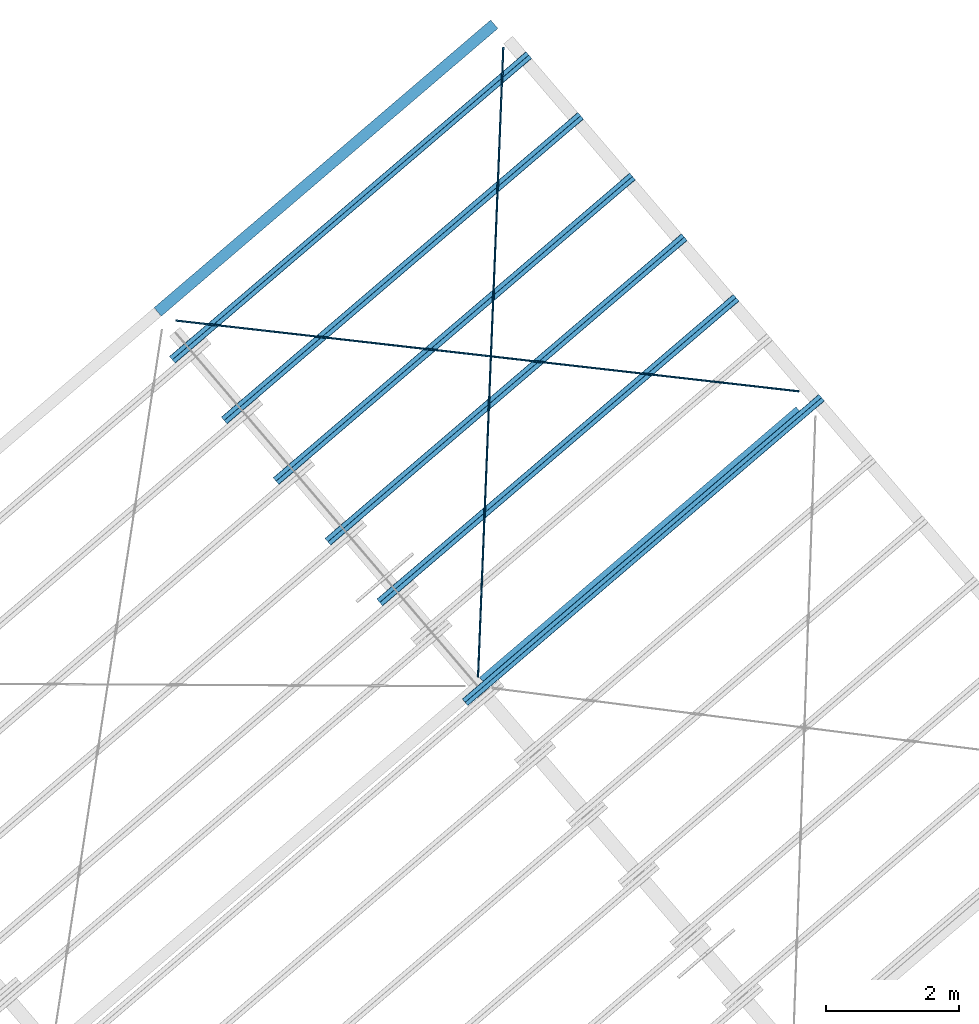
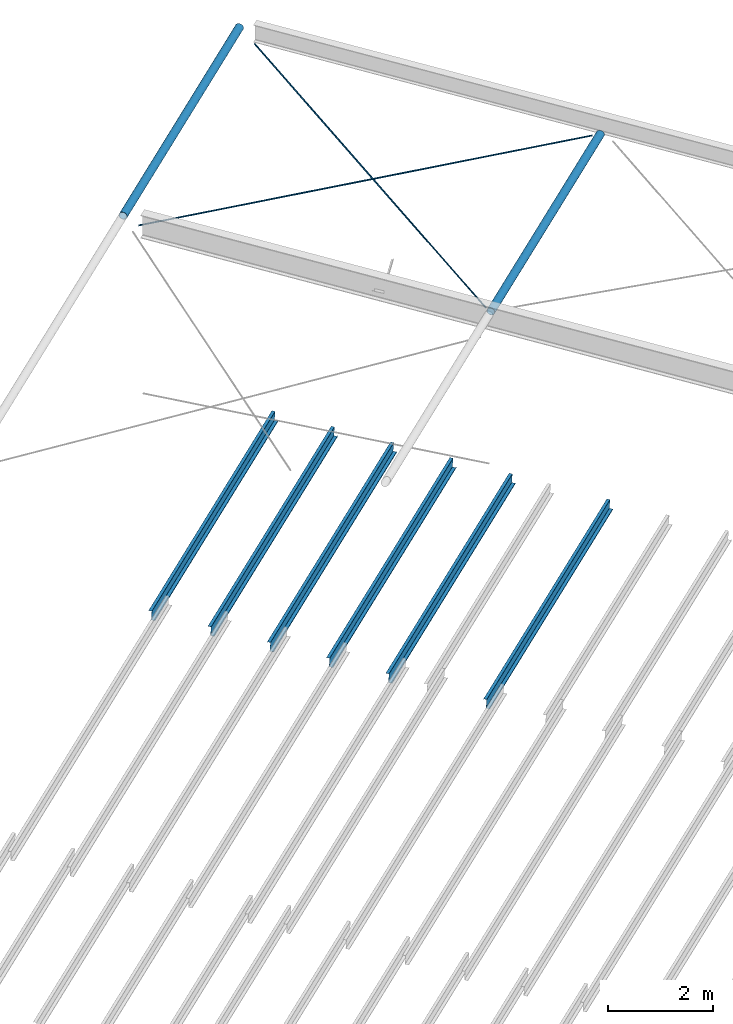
# One storey, part 20 of 25: 10 beams, 2 elements without a shape of their own.
"""IFC2X3 building model written with IfcOpenShell, lengths in millimetres."""

from ifc_helpers import new_model, entity, si_unit, converted_unit, derived_unit, direction, frame, frame_2d, origin, origin_2d_with_axis, place, context, subcontext, project, spatial, polyline, circle_curve, parameter, trimmed, segment, composite_curve, circle, hollow_circle, outline, extrude, material, type_object, element, aggregate, save


model = new_model("IFC2X3")

# Units and contexts
model_context = context("Model", 3, precision=0.01, world=origin(), true_north=direction((6.123031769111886e-17, 1.0)))
body_context = subcontext(model_context, "Body", "Model", "MODEL_VIEW")
ifc_project = project(units=[si_unit("LENGTHUNIT", "METRE", prefix="MILLI"), si_unit("AREAUNIT", "SQUARE_METRE"), si_unit("VOLUMEUNIT", "CUBIC_METRE"), converted_unit("PLANEANGLEUNIT", "DEGREE", entity("IfcRatioMeasure", 0.017453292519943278), si_unit("PLANEANGLEUNIT", "RADIAN"), dimensions=[0, 0, 0, 0, 0, 0, 0]), si_unit("MASSUNIT", "GRAM", prefix="KILO"), derived_unit("MASSDENSITYUNIT", [(si_unit("MASSUNIT", "GRAM", prefix="KILO"), 1), (si_unit("LENGTHUNIT", "METRE"), -3)]), derived_unit("MOMENTOFINERTIAUNIT", [(si_unit("LENGTHUNIT", "METRE"), 4)]), si_unit("TIMEUNIT", "SECOND"), si_unit("FREQUENCYUNIT", "HERTZ"), si_unit("THERMODYNAMICTEMPERATUREUNIT", "DEGREE_CELSIUS"), derived_unit("THERMALTRANSMITTANCEUNIT", [(si_unit("MASSUNIT", "GRAM", prefix="KILO"), 1), (si_unit("THERMODYNAMICTEMPERATUREUNIT", "KELVIN"), -1), (si_unit("TIMEUNIT", "SECOND"), -3)]), derived_unit("VOLUMETRICFLOWRATEUNIT", [(si_unit("LENGTHUNIT", "METRE"), 3), (si_unit("TIMEUNIT", "SECOND"), -1)]), derived_unit("MASSFLOWRATEUNIT", [(si_unit("MASSUNIT", "GRAM", prefix="KILO"), 1), (si_unit("TIMEUNIT", "SECOND"), -1)]), derived_unit("ROTATIONALFREQUENCYUNIT", [(si_unit("TIMEUNIT", "SECOND"), -1)]), si_unit("ELECTRICCURRENTUNIT", "AMPERE"), si_unit("ELECTRICVOLTAGEUNIT", "VOLT"), si_unit("POWERUNIT", "WATT"), si_unit("FORCEUNIT", "NEWTON", prefix="KILO"), si_unit("ILLUMINANCEUNIT", "LUX"), si_unit("LUMINOUSFLUXUNIT", "LUMEN"), si_unit("LUMINOUSINTENSITYUNIT", "CANDELA"), derived_unit("USERDEFINED", [(si_unit("MASSUNIT", "GRAM", prefix="KILO"), -1), (si_unit("LENGTHUNIT", "METRE"), -2), (si_unit("TIMEUNIT", "SECOND"), 3), (si_unit("LUMINOUSFLUXUNIT", "LUMEN"), 1)]), derived_unit("SOUNDPOWERUNIT", [(si_unit("MASSUNIT", "GRAM", prefix="KILO"), 1), (si_unit("LENGTHUNIT", "METRE"), 2), (si_unit("TIMEUNIT", "SECOND"), -3)]), derived_unit("LINEARVELOCITYUNIT", [(si_unit("LENGTHUNIT", "METRE"), 1), (si_unit("TIMEUNIT", "SECOND"), -1)]), si_unit("PRESSUREUNIT", "PASCAL"), derived_unit("USERDEFINED", [(si_unit("LENGTHUNIT", "METRE"), -2), (si_unit("MASSUNIT", "GRAM", prefix="KILO"), 1), (si_unit("TIMEUNIT", "SECOND"), -2)]), derived_unit("LINEARFORCEUNIT", [(si_unit("MASSUNIT", "GRAM", prefix="KILO"), 1), (si_unit("LENGTHUNIT", "METRE"), 1), (si_unit("TIMEUNIT", "SECOND"), -2), (si_unit("LENGTHUNIT", "METRE"), -1)]), derived_unit("PLANARFORCEUNIT", [(si_unit("MASSUNIT", "GRAM", prefix="KILO"), 1), (si_unit("LENGTHUNIT", "METRE"), 1), (si_unit("TIMEUNIT", "SECOND"), -2), (si_unit("LENGTHUNIT", "METRE"), -2)])], contexts=[model_context])

# Site, building, storey
site_placement = place(None, frame((962.4174930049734, -6014.433753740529, 0.0), z_axis=(0.0, 0.0, 1.0), x_axis=(0.7601792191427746, 0.649713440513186, 0.0)))
site = spatial("IfcSite", under=ifc_project, at=site_placement, Name="Default", CompositionType="ELEMENT")
building_placement = place(site_placement, origin())
building = spatial("IfcBuilding", under=site, at=building_placement, CompositionType="ELEMENT")
storey_placement = place(building_placement, frame((0.0, 0.0, 9200.0)))
storey = spatial("IfcBuildingStorey", under=building, at=storey_placement, Name="TOP OF CEILING", CompositionType="ELEMENT", Elevation=9200.000000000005)

# Beams
ifc_material_1 = material(Name="Metal - Steel - 300 MPa")
beam_type_1 = type_object("IfcBeamType", Name="ADSK_AU_CHS-Circular Hollow Sections (AS 1163_C350):168.3x6.4CHS", PredefinedType="NOTDEFINED")
beam_1_placement = place(storey_placement, frame((185498.96020471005, -3867.590582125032, 3533.8), z_axis=(0.0, 0.0, 1.0), x_axis=(-1.0, 0.0, 0.0)))
element("IfcBeam", 1, at=beam_1_placement, inside=storey, type_object=beam_type_1, material=ifc_material_1, Name="ADSK_AU_CHS-Circular Hollow Sections (AS 1163_C350):168.3x6.4CHS", ObjectType="ADSK_AU_CHS-Circular Hollow Sections (AS 1163_C350):168.3x6.4CHS", context=body_context, shape_type="SweptSolid", body=[
    extrude(hollow_circle(Radius=84.15000000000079, WallThickness=6.4000000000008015, at=origin_2d_with_axis()), frame((7.0, 0.0, -84.15000000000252), z_axis=(1.0, 0.0, 0.0), x_axis=(0.0, 1.0, 0.0)), (0.0, 0.0, 1.0), 6245.899999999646),
])
beam_2_placement = place(storey_placement, frame((179292.0602047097, 3518.4719178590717, 4100.299999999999)))
element("IfcBeam", 2, at=beam_2_placement, inside=storey, type_object=beam_type_1, material=ifc_material_1, Name="ADSK_AU_CHS-Circular Hollow Sections (AS 1163_C350):168.3x6.4CHS", ObjectType="ADSK_AU_CHS-Circular Hollow Sections (AS 1163_C350):168.3x6.4CHS", context=body_context, shape_type="SweptSolid", body=[
    extrude(hollow_circle(Radius=84.15000000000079, WallThickness=6.4000000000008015, at=origin_2d_with_axis()), frame((-153.0999999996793, 0.0, -84.15000000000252), z_axis=(1.0, 0.0, 0.0), x_axis=(0.0, 1.0, 0.0)), (0.0, 0.0, 1.0), 6641.099999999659),
])
beam_type_2 = type_object("IfcBeamType", Name="ADSK_AU_Round Bars (AS 3679_1):24ROD", PredefinedType="NOTDEFINED")
beam_3_placement = place(storey_placement, frame((179138.96020471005, -3867.590582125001, 3533.8), z_axis=(-0.018860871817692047, -0.020353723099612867, 0.9996149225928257), x_axis=(0.6794340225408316, 0.733211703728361, 0.027748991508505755)))
element("IfcBeam", 3, at=beam_3_placement, inside=storey, type_object=beam_type_2, Name="ADSK_AU_Round Bars (AS 3679_1):24ROD", ObjectType="ADSK_AU_Round Bars (AS 3679_1):24ROD", context=body_context, shape_type="SweptSolid", body=[
    extrude(circle(Radius=11.999999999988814, at=frame_2d((3.6801009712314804e-13, 1.5143281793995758e-11), x_axis=(1.0, 0.0))), frame((138.52071354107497, 0.0, -12.0), z_axis=(1.0, 0.0, 0.0), x_axis=(0.0, -1.0, 0.0)), (0.0, 0.0, 1.0), 9454.600000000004),
])
beam_4_placement = place(storey_placement, frame((185678.32394520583, -3637.7248587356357, 3250.0), z_axis=(0.039072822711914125, -0.041900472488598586, 0.998357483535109), x_axis=(-0.6808781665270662, 0.730152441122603, 0.05729166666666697)))
element("IfcBeam", 4, at=beam_4_placement, inside=storey, type_object=beam_type_2, Name="ADSK_AU_Round Bars (AS 3679_1):24ROD", ObjectType="ADSK_AU_Round Bars (AS 3679_1):24ROD", context=body_context, shape_type="SweptSolid", body=[
    extrude(circle(Radius=11.99999999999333, at=frame_2d((3.692568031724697e-12, 1.1037748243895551e-11), x_axis=(1.0, 0.0))), frame((0.0, 0.0, -12.0), z_axis=(1.0, 0.0, 0.0), x_axis=(0.0, -1.0, 0.0)), (0.0, 0.0, 1.0), 9423.800000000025),
])

# Assembly, beams
assembly_1_placement = place(storey_placement, origin())
assembly_1 = element("IfcElementAssembly", 5, at=assembly_1_placement, inside=storey, Name="Structural Beam System:Structural Beam System 1", ObjectType="Structural Beam System:Structural Beam System 1", AssemblyPlace="NOTDEFINED", PredefinedType="BEAM_GRID")
ifc_material_2 = material(Name="Metal - Light Gauge")
beam_type_3 = type_object("IfcBeamType", Name="ADSK_AU_Light Gauge-Zeds:Z20024", PredefinedType="NOTDEFINED")
beam_5_placement = place(building_placement, frame((185873.56020470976, 2831.2965036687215, 4387.99192734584), z_axis=(0.0, 0.0, 1.0), x_axis=(-1.0, 0.0, 0.0)))
beam_5 = element("IfcBeam", 6, at=beam_5_placement, type_object=beam_type_3, material=ifc_material_2, Name="ADSK_AU_Light Gauge-Zeds:Z20024", ObjectType="ADSK_AU_Light Gauge-Zeds:Z20024", context=body_context, shape_type="SweptSolid", body=[
    extrude(outline(composite_curve([segment(polyline([(99.10000000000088, 1.0299999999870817), (99.09999999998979, -71.67000000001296)]), True, "CONTINUOUS"), segment(trimmed(circle_curve(frame_2d((97.09999999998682, -71.6700000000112), x_axis=(0.0, -1.0)), 2.000000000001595), [parameter(0.0)], [parameter(89.99999999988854)], True, "PARAMETER"), False, "CONTINUOUS"), segment(polyline([(97.09999999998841, -73.67000000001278), (79.49999999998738, -73.67000000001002)]), True, "CONTINUOUS"), segment(polyline([(79.49999999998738, -73.67000000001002), (79.4999999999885, -76.07000000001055)]), True, "CONTINUOUS"), segment(polyline([(79.49999999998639, -76.07000000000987), (97.09999999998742, -76.07000000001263)]), True, "CONTINUOUS"), segment(trimmed(circle_curve(frame_2d((97.09999999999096, -71.6700000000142), x_axis=(1.0, 0.0)), 4.399999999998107), [parameter(269.99999999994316)], [parameter(0.0)], True, "PARAMETER"), True, "CONTINUOUS"), segment(polyline([(101.49999999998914, -71.67000000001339), (101.50000000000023, 1.0299999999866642)]), True, "CONTINUOUS"), segment(trimmed(circle_curve(frame_2d((97.09999999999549, 1.0299999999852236), x_axis=(0.0, 1.0)), 4.4000000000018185), [parameter(270.0000000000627)], [parameter(0.0)], True, "PARAMETER"), True, "CONTINUOUS"), segment(polyline([(97.09999999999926, 5.429999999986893), (-97.10000000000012, 5.430000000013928)]), True, "CONTINUOUS"), segment(trimmed(circle_curve(frame_2d((-97.09999999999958, 7.430000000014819), x_axis=(-1.0, 0.0)), 2.0000000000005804), [parameter(0.0)], [parameter(89.99999999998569)], True, "PARAMETER"), False, "CONTINUOUS"), segment(polyline([(-99.10000000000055, 7.430000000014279), (-99.09999999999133, 66.03000000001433)]), True, "CONTINUOUS"), segment(trimmed(circle_curve(frame_2d((-97.0999999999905, 66.0300000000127), x_axis=(0.0, 1.0)), 2.000000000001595), [parameter(0.0)], [parameter(89.99999999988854)], True, "PARAMETER"), False, "CONTINUOUS"), segment(polyline([(-97.0999999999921, 68.03000000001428), (-79.49999999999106, 68.03000000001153)]), True, "CONTINUOUS"), segment(polyline([(-79.49999999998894, 68.03000000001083), (-79.49999999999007, 70.43000000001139)]), True, "CONTINUOUS"), segment(polyline([(-79.49999999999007, 70.43000000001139), (-97.0999999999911, 70.43000000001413)]), True, "CONTINUOUS"), segment(trimmed(circle_curve(frame_2d((-97.09999999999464, 66.0300000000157), x_axis=(-1.0, 0.0)), 4.3999999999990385), [parameter(269.99999999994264)], [parameter(0.0)], True, "PARAMETER"), True, "CONTINUOUS"), segment(polyline([(-101.49999999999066, 66.03000000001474), (-101.4999999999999, 7.430000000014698)]), True, "CONTINUOUS"), segment(trimmed(circle_curve(frame_2d((-97.09999999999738, 7.430000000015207), x_axis=(0.0, -1.0)), 4.400000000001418), [parameter(270.0000000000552)], [parameter(0.0)], True, "PARAMETER"), True, "CONTINUOUS"), segment(polyline([(-97.10000000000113, 3.03000000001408), (97.09999999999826, 3.0299999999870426)]), True, "CONTINUOUS"), segment(trimmed(circle_curve(frame_2d((97.09999999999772, 1.0299999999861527), x_axis=(1.0, 0.0)), 2.0000000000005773), [parameter(0.0)], [parameter(89.99999999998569)], True, "PARAMETER"), False, "CONTINUOUS")], self_intersect=False)), frame((0.0, -1.6635092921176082, -101.6315287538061), z_axis=(-1.0, 0.0, 0.0), x_axis=(0.0, -0.06975647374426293, -0.9975640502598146)), (0.0, 0.0, -1.0), 7035.000000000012),
])
beam_6_placement = place(building_placement, frame((185873.56020470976, 1634.2196433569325, 4304.284158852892), z_axis=(0.0, 0.0, 1.0), x_axis=(-1.0, 0.0, 0.0)))
beam_6 = element("IfcBeam", 7, at=beam_6_placement, type_object=beam_type_3, material=ifc_material_2, Name="ADSK_AU_Light Gauge-Zeds:Z20024", ObjectType="ADSK_AU_Light Gauge-Zeds:Z20024", context=body_context, shape_type="SweptSolid", body=[
    extrude(outline(composite_curve([segment(polyline([(99.10000000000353, 1.0299999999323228), (99.09999999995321, -71.67000000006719)]), True, "CONTINUOUS"), segment(trimmed(circle_curve(frame_2d((97.09999999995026, -71.67000000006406), x_axis=(0.0, -1.0)), 2.0000000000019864), [parameter(0.0)], [parameter(89.99999999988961)], True, "PARAMETER"), False, "CONTINUOUS"), segment(polyline([(97.09999999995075, -73.67000000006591), (79.49999999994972, -73.67000000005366)]), True, "CONTINUOUS"), segment(polyline([(79.49999999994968, -73.6700000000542), (79.49999999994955, -76.0700000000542)]), True, "CONTINUOUS"), segment(polyline([(79.4999999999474, -76.07000000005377), (97.09999999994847, -76.07000000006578)]), True, "CONTINUOUS"), segment(trimmed(circle_curve(frame_2d((97.0999999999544, -71.67000000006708), x_axis=(1.0, 0.0)), 4.399999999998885), [parameter(269.9999999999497)], [parameter(0.0)], True, "PARAMETER"), True, "CONTINUOUS"), segment(polyline([(101.49999999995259, -71.67000000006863), (101.50000000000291, 1.0299999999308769)]), True, "CONTINUOUS"), segment(trimmed(circle_curve(frame_2d((97.0999999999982, 1.0299999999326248), x_axis=(0.0, 1.0)), 4.400000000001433), [parameter(270.0000000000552)], [parameter(0.0)], True, "PARAMETER"), True, "CONTINUOUS"), segment(polyline([(97.10000000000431, 5.429999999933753), (-97.09999999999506, 5.430000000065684)]), True, "CONTINUOUS"), segment(trimmed(circle_curve(frame_2d((-97.09999999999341, 7.430000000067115), x_axis=(-1.0, 0.0)), 2.0000000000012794), [parameter(0.0)], [parameter(89.9999999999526)], True, "PARAMETER"), False, "CONTINUOUS"), segment(polyline([(-99.0999999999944, 7.430000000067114), (-99.09999999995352, 66.03000000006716)]), True, "CONTINUOUS"), segment(trimmed(circle_curve(frame_2d((-97.09999999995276, 66.03000000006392), x_axis=(0.0, 1.0)), 2.0000000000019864), [parameter(0.0)], [parameter(89.99999999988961)], True, "PARAMETER"), False, "CONTINUOUS"), segment(polyline([(-97.09999999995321, 68.03000000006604), (-79.4999999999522, 68.03000000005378)]), True, "CONTINUOUS"), segment(polyline([(-79.49999999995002, 68.0300000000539), (-79.49999999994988, 70.4300000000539)]), True, "CONTINUOUS"), segment(polyline([(-79.49999999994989, 70.43000000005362), (-97.09999999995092, 70.43000000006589)]), True, "CONTINUOUS"), segment(trimmed(circle_curve(frame_2d((-97.09999999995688, 66.03000000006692), x_axis=(-1.0, 0.0)), 4.399999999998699), [parameter(269.9999999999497)], [parameter(0.0)], True, "PARAMETER"), True, "CONTINUOUS"), segment(polyline([(-101.49999999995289, 66.03000000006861), (-101.49999999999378, 7.43000000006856)]), True, "CONTINUOUS"), segment(trimmed(circle_curve(frame_2d((-97.09999999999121, 7.430000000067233), x_axis=(0.0, -1.0)), 4.400000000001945), [parameter(270.0000000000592)], [parameter(0.0)], True, "PARAMETER"), True, "CONTINUOUS"), segment(polyline([(-97.09999999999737, 3.030000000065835), (97.10000000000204, 3.029999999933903)]), True, "CONTINUOUS"), segment(trimmed(circle_curve(frame_2d((97.10000000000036, 1.0299999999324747), x_axis=(1.0, 0.0)), 2.0000000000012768), [parameter(0.0)], [parameter(89.9999999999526)], True, "PARAMETER"), False, "CONTINUOUS")], self_intersect=False)), frame((0.0, -1.6635092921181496, -101.63152875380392), z_axis=(-1.0, 0.0, 0.0), x_axis=(0.0, -0.06975647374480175, -0.997564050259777)), (0.0, 0.0, -1.0), 7035.00000000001),
])
beam_7_placement = place(building_placement, frame((185873.56020470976, 437.1427830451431, 4220.57639035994), z_axis=(0.0, 0.0, 1.0), x_axis=(-1.0, 0.0, 0.0)))
beam_7 = element("IfcBeam", 8, at=beam_7_placement, type_object=beam_type_3, material=ifc_material_2, Name="ADSK_AU_Light Gauge-Zeds:Z20024", ObjectType="ADSK_AU_Light Gauge-Zeds:Z20024", context=body_context, shape_type="SweptSolid", body=[
    extrude(outline(composite_curve([segment(polyline([(99.10000000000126, 1.0299999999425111), (99.09999999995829, -71.67000000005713)]), True, "CONTINUOUS"), segment(trimmed(circle_curve(frame_2d((97.09999999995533, -71.67000000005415), x_axis=(0.0, -1.0)), 2.000000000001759), [parameter(0.0)], [parameter(89.99999999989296)], True, "PARAMETER"), False, "CONTINUOUS"), segment(polyline([(97.09999999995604, -73.67000000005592), (79.499999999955, -73.67000000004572)]), True, "CONTINUOUS"), segment(polyline([(79.499999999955, -73.67000000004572), (79.4999999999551, -76.07000000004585)]), True, "CONTINUOUS"), segment(polyline([(79.49999999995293, -76.0700000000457), (97.099999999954, -76.07000000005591)]), True, "CONTINUOUS"), segment(trimmed(circle_curve(frame_2d((97.09999999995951, -71.67000000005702), x_axis=(1.0, 0.0)), 4.399999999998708), [parameter(269.999999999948)], [parameter(0.0)], True, "PARAMETER"), True, "CONTINUOUS"), segment(polyline([(101.49999999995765, -71.67000000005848), (101.50000000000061, 1.0299999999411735)]), True, "CONTINUOUS"), segment(trimmed(circle_curve(frame_2d((97.09999999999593, 1.0299999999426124), x_axis=(0.0, 1.0)), 4.4000000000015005), [parameter(270.000000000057)], [parameter(0.0)], True, "PARAMETER"), True, "CONTINUOUS"), segment(polyline([(97.1000000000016, 5.429999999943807), (-97.09999999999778, 5.430000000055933)]), True, "CONTINUOUS"), segment(trimmed(circle_curve(frame_2d((-97.09999999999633, 7.430000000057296), x_axis=(-1.0, 0.0)), 2.000000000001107), [parameter(0.0)], [parameter(89.99999999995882)], True, "PARAMETER"), False, "CONTINUOUS"), segment(polyline([(-99.09999999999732, 7.430000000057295), (-99.09999999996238, 66.03000000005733)]), True, "CONTINUOUS"), segment(trimmed(circle_curve(frame_2d((-97.09999999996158, 66.03000000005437), x_axis=(0.0, 1.0)), 2.0000000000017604), [parameter(0.0)], [parameter(89.99999999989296)], True, "PARAMETER"), False, "CONTINUOUS"), segment(polyline([(-97.09999999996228, 68.03000000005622), (-79.49999999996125, 68.03000000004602)]), True, "CONTINUOUS"), segment(polyline([(-79.49999999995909, 68.03000000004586), (-79.49999999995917, 70.430000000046)]), True, "CONTINUOUS"), segment(polyline([(-79.49999999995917, 70.430000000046), (-97.09999999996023, 70.4300000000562)]), True, "CONTINUOUS"), segment(trimmed(circle_curve(frame_2d((-97.09999999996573, 66.03000000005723), x_axis=(-1.0, 0.0)), 4.399999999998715), [parameter(269.99999999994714)], [parameter(0.0)], True, "PARAMETER"), True, "CONTINUOUS"), segment(polyline([(-101.49999999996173, 66.03000000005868), (-101.49999999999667, 7.430000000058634)]), True, "CONTINUOUS"), segment(trimmed(circle_curve(frame_2d((-97.09999999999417, 7.430000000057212), x_axis=(0.0, -1.0)), 4.400000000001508), [parameter(270.00000000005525)], [parameter(0.0)], True, "PARAMETER"), True, "CONTINUOUS"), segment(polyline([(-97.09999999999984, 3.0300000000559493), (97.09999999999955, 3.029999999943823)]), True, "CONTINUOUS"), segment(trimmed(circle_curve(frame_2d((97.0999999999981, 1.029999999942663), x_axis=(1.0, 0.0)), 2.0000000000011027), [parameter(0.0)], [parameter(89.99999999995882)], True, "PARAMETER"), False, "CONTINUOUS")], self_intersect=False)), frame((0.0, -1.6635092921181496, -101.6315287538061), z_axis=(-1.0, 0.0, 0.0), x_axis=(0.0, -0.0697564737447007, -0.997564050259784)), (0.0, 0.0, -1.0), 7035.000000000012),
])
beam_8_placement = place(building_placement, frame((185873.56020470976, -759.9340772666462, 4136.868621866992), z_axis=(0.0, 0.0, 1.0), x_axis=(-1.0, 0.0, 0.0)))
beam_8 = element("IfcBeam", 9, at=beam_8_placement, type_object=beam_type_3, material=ifc_material_2, Name="ADSK_AU_Light Gauge-Zeds:Z20024", ObjectType="ADSK_AU_Light Gauge-Zeds:Z20024", context=body_context, shape_type="SweptSolid", body=[
    extrude(outline(composite_curve([segment(polyline([(99.10000000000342, 1.02999999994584), (99.09999999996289, -71.67000000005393)]), True, "CONTINUOUS"), segment(trimmed(circle_curve(frame_2d((97.09999999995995, -71.67000000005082), x_axis=(0.0, -1.0)), 2.0000000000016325), [parameter(0.0)], [parameter(89.99999999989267)], True, "PARAMETER"), False, "CONTINUOUS"), segment(polyline([(97.09999999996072, -73.67000000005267), (79.49999999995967, -73.67000000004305)]), True, "CONTINUOUS"), segment(polyline([(79.49999999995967, -73.67000000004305), (79.49999999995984, -76.07000000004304)]), True, "CONTINUOUS"), segment(polyline([(79.49999999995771, -76.07000000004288), (97.09999999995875, -76.07000000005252)]), True, "CONTINUOUS"), segment(trimmed(circle_curve(frame_2d((97.09999999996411, -71.67000000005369), x_axis=(1.0, 0.0)), 4.399999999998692), [parameter(269.99999999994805)], [parameter(0.0)], True, "PARAMETER"), True, "CONTINUOUS"), segment(polyline([(101.49999999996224, -71.6700000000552), (101.50000000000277, 1.0299999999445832)]), True, "CONTINUOUS"), segment(trimmed(circle_curve(frame_2d((97.0999999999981, 1.029999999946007), x_axis=(0.0, 1.0)), 4.400000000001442), [parameter(270.00000000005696)], [parameter(0.0)], True, "PARAMETER"), True, "CONTINUOUS"), segment(polyline([(97.1000000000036, 5.429999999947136), (-97.09999999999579, 5.430000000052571)]), True, "CONTINUOUS"), segment(trimmed(circle_curve(frame_2d((-97.09999999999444, 7.430000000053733), x_axis=(-1.0, 0.0)), 2.0000000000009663), [parameter(0.0)], [parameter(89.99999999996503)], True, "PARAMETER"), False, "CONTINUOUS"), segment(polyline([(-99.0999999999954, 7.430000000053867), (-99.09999999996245, 66.03000000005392)]), True, "CONTINUOUS"), segment(trimmed(circle_curve(frame_2d((-97.09999999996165, 66.03000000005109), x_axis=(0.0, 1.0)), 2.0000000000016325), [parameter(0.0)], [parameter(89.99999999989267)], True, "PARAMETER"), False, "CONTINUOUS"), segment(polyline([(-97.0999999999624, 68.03000000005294), (-79.49999999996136, 68.03000000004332)]), True, "CONTINUOUS"), segment(polyline([(-79.49999999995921, 68.03000000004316), (-79.4999999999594, 70.43000000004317)]), True, "CONTINUOUS"), segment(polyline([(-79.4999999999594, 70.43000000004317), (-97.09999999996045, 70.43000000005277)]), True, "CONTINUOUS"), segment(trimmed(circle_curve(frame_2d((-97.09999999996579, 66.03000000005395), x_axis=(-1.0, 0.0)), 4.3999999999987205), [parameter(269.99999999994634)], [parameter(0.0)], True, "PARAMETER"), True, "CONTINUOUS"), segment(polyline([(-101.49999999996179, 66.03000000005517), (-101.49999999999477, 7.430000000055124)]), True, "CONTINUOUS"), segment(trimmed(circle_curve(frame_2d((-97.09999999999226, 7.430000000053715), x_axis=(0.0, -1.0)), 4.400000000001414), [parameter(270.00000000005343)], [parameter(0.0)], True, "PARAMETER"), True, "CONTINUOUS"), segment(polyline([(-97.09999999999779, 3.0300000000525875), (97.10000000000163, 3.029999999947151)]), True, "CONTINUOUS"), segment(trimmed(circle_curve(frame_2d((97.10000000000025, 1.029999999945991), x_axis=(1.0, 0.0)), 2.000000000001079), [parameter(0.0)], [parameter(89.99999999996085)], True, "PARAMETER"), False, "CONTINUOUS")], self_intersect=False)), frame((0.0, -1.6635092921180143, -101.63152875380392), z_axis=(-1.0, 0.0, 0.0), x_axis=(0.0, -0.06975647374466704, -0.9975640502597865)), (0.0, 0.0, -1.0), 7035.00000000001),
])
beam_9_placement = place(building_placement, frame((185873.56020470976, -1957.0109375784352, 4053.16085337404), z_axis=(0.0, 0.0, 1.0), x_axis=(-1.0, 0.0, 0.0)))
beam_9 = element("IfcBeam", 10, at=beam_9_placement, type_object=beam_type_3, material=ifc_material_2, Name="ADSK_AU_Light Gauge-Zeds:Z20024", ObjectType="ADSK_AU_Light Gauge-Zeds:Z20024", context=body_context, shape_type="SweptSolid", body=[
    extrude(outline(composite_curve([segment(polyline([(99.10000000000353, 1.0299999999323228), (99.09999999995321, -71.67000000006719)]), True, "CONTINUOUS"), segment(trimmed(circle_curve(frame_2d((97.09999999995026, -71.67000000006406), x_axis=(0.0, -1.0)), 2.0000000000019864), [parameter(0.0)], [parameter(89.99999999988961)], True, "PARAMETER"), False, "CONTINUOUS"), segment(polyline([(97.09999999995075, -73.67000000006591), (79.49999999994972, -73.67000000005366)]), True, "CONTINUOUS"), segment(polyline([(79.49999999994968, -73.6700000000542), (79.49999999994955, -76.0700000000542)]), True, "CONTINUOUS"), segment(polyline([(79.4999999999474, -76.07000000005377), (97.09999999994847, -76.07000000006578)]), True, "CONTINUOUS"), segment(trimmed(circle_curve(frame_2d((97.0999999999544, -71.67000000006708), x_axis=(1.0, 0.0)), 4.399999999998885), [parameter(269.9999999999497)], [parameter(0.0)], True, "PARAMETER"), True, "CONTINUOUS"), segment(polyline([(101.49999999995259, -71.67000000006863), (101.50000000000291, 1.0299999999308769)]), True, "CONTINUOUS"), segment(trimmed(circle_curve(frame_2d((97.0999999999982, 1.0299999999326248), x_axis=(0.0, 1.0)), 4.400000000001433), [parameter(270.0000000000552)], [parameter(0.0)], True, "PARAMETER"), True, "CONTINUOUS"), segment(polyline([(97.10000000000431, 5.429999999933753), (-97.09999999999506, 5.430000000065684)]), True, "CONTINUOUS"), segment(trimmed(circle_curve(frame_2d((-97.09999999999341, 7.430000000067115), x_axis=(-1.0, 0.0)), 2.0000000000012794), [parameter(0.0)], [parameter(89.9999999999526)], True, "PARAMETER"), False, "CONTINUOUS"), segment(polyline([(-99.0999999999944, 7.430000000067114), (-99.09999999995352, 66.03000000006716)]), True, "CONTINUOUS"), segment(trimmed(circle_curve(frame_2d((-97.09999999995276, 66.03000000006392), x_axis=(0.0, 1.0)), 2.0000000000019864), [parameter(0.0)], [parameter(89.99999999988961)], True, "PARAMETER"), False, "CONTINUOUS"), segment(polyline([(-97.09999999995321, 68.03000000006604), (-79.4999999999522, 68.03000000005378)]), True, "CONTINUOUS"), segment(polyline([(-79.49999999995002, 68.0300000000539), (-79.49999999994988, 70.4300000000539)]), True, "CONTINUOUS"), segment(polyline([(-79.49999999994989, 70.43000000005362), (-97.09999999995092, 70.43000000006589)]), True, "CONTINUOUS"), segment(trimmed(circle_curve(frame_2d((-97.09999999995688, 66.03000000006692), x_axis=(-1.0, 0.0)), 4.399999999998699), [parameter(269.9999999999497)], [parameter(0.0)], True, "PARAMETER"), True, "CONTINUOUS"), segment(polyline([(-101.49999999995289, 66.03000000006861), (-101.49999999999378, 7.43000000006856)]), True, "CONTINUOUS"), segment(trimmed(circle_curve(frame_2d((-97.09999999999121, 7.430000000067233), x_axis=(0.0, -1.0)), 4.400000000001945), [parameter(270.0000000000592)], [parameter(0.0)], True, "PARAMETER"), True, "CONTINUOUS"), segment(polyline([(-97.09999999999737, 3.030000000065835), (97.10000000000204, 3.029999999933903)]), True, "CONTINUOUS"), segment(trimmed(circle_curve(frame_2d((97.10000000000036, 1.0299999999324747), x_axis=(1.0, 0.0)), 2.0000000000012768), [parameter(0.0)], [parameter(89.9999999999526)], True, "PARAMETER"), False, "CONTINUOUS")], self_intersect=False)), frame((0.0, -1.6635092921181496, -101.63152875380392), z_axis=(-1.0, 0.0, 0.0), x_axis=(0.0, -0.06975647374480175, -0.997564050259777)), (0.0, 0.0, -1.0), 7035.00000000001),
])
aggregate(assembly_1, [beam_5, beam_6, beam_7, beam_8, beam_9])

# Assembly, beam
assembly_2_placement = place(storey_placement, origin())
assembly_2 = element("IfcElementAssembly", 11, at=assembly_2_placement, inside=storey, Name="Structural Beam System:Structural Beam System 1", ObjectType="Structural Beam System:Structural Beam System 1", AssemblyPlace="NOTDEFINED", PredefinedType="BEAM_GRID")
beam_type_4 = type_object("IfcBeamType", Name="ADSK_AU_Light Gauge-Zeds:Z20019", PredefinedType="NOTDEFINED")
beam_10_placement = place(building_placement, frame((185873.56020470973, -3928.464816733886, 3915.3033687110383), z_axis=(0.0, 0.0, 1.0), x_axis=(-1.0, 0.0, 0.0)))
beam_10 = element("IfcBeam", 12, at=beam_10_placement, type_object=beam_type_4, material=ifc_material_2, Name="ADSK_AU_Light Gauge-Zeds:Z20019", ObjectType="ADSK_AU_Light Gauge-Zeds:Z20019", context=body_context, shape_type="SweptSolid", body=[
    extrude(outline(composite_curve([segment(polyline([(99.6500000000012, 1.2799999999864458), (99.64999999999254, -70.4200000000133)]), True, "CONTINUOUS"), segment(trimmed(circle_curve(frame_2d((97.64999999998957, -70.42000000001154), x_axis=(0.0, -1.0)), 2.000000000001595), [parameter(0.0)], [parameter(89.99999999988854)], True, "PARAMETER"), False, "CONTINUOUS"), segment(polyline([(97.64999999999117, -72.42000000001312), (80.04999999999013, -72.42000000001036)]), True, "CONTINUOUS"), segment(polyline([(80.04999999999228, -72.42000000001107), (80.04999999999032, -74.3200000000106)]), True, "CONTINUOUS"), segment(polyline([(80.04999999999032, -74.3200000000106), (97.64999999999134, -74.32000000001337)]), True, "CONTINUOUS"), segment(trimmed(circle_curve(frame_2d((97.6499999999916, -70.42000000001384), x_axis=(1.0, 0.0)), 3.8999999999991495), [parameter(269.999999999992)], [parameter(0.0)], True, "PARAMETER"), True, "CONTINUOUS"), segment(polyline([(101.5499999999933, -70.42000000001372), (101.55000000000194, 1.2799999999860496)]), True, "CONTINUOUS"), segment(trimmed(circle_curve(frame_2d((97.65000000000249, 1.2799999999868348), x_axis=(0.0, 1.0)), 3.8999999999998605), [parameter(269.999999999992)], [parameter(0.0)], True, "PARAMETER"), True, "CONTINUOUS"), segment(polyline([(97.65000000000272, 5.1799999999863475), (-97.54999999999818, 5.18000000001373)]), True, "CONTINUOUS"), segment(trimmed(circle_curve(frame_2d((-97.54999999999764, 7.18000000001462), x_axis=(-1.0, 0.0)), 2.0000000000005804), [parameter(0.0)], [parameter(89.99999999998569)], True, "PARAMETER"), False, "CONTINUOUS"), segment(polyline([(-99.54999999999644, 7.180000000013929), (-99.54999999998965, 64.78000000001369)]), True, "CONTINUOUS"), segment(trimmed(circle_curve(frame_2d((-97.54999999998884, 64.78000000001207), x_axis=(0.0, 1.0)), 2.000000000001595), [parameter(0.0)], [parameter(89.99999999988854)], True, "PARAMETER"), False, "CONTINUOUS"), segment(polyline([(-97.54999999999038, 66.78000000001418), (-80.44999999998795, 66.78000000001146)]), True, "CONTINUOUS"), segment(polyline([(-80.44999999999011, 66.7800000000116), (-80.44999999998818, 68.68000000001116)]), True, "CONTINUOUS"), segment(polyline([(-80.449999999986, 68.680000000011), (-97.54999999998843, 68.68000000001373)]), True, "CONTINUOUS"), segment(trimmed(circle_curve(frame_2d((-97.54999999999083, 64.78000000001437), x_axis=(-1.0, 0.0)), 3.89999999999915), [parameter(269.999999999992)], [parameter(0.0)], True, "PARAMETER"), True, "CONTINUOUS"), segment(polyline([(-101.4499999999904, 64.78000000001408), (-101.44999999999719, 7.180000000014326)]), True, "CONTINUOUS"), segment(trimmed(circle_curve(frame_2d((-97.54999999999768, 7.18000000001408), x_axis=(0.0, -1.0)), 3.9000000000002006), [parameter(270.00000000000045)], [parameter(0.0)], True, "PARAMETER"), True, "CONTINUOUS"), segment(polyline([(-97.549999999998, 3.2800000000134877), (97.65000000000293, 3.279999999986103)]), True, "CONTINUOUS"), segment(trimmed(circle_curve(frame_2d((97.65000000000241, 1.279999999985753), x_axis=(1.0, 0.0)), 2.0000000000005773), [parameter(0.0)], [parameter(89.99999999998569)], True, "PARAMETER"), False, "CONTINUOUS")], self_intersect=False)), frame((0.0, -1.9094124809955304, -101.56421143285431), z_axis=(-1.0, 0.0, 0.0), x_axis=(0.0, -0.06975647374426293, -0.9975640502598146)), (0.0, 0.0, -1.0), 7035.000000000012),
])
aggregate(assembly_2, [beam_10])

save(model, "model.ifc")
